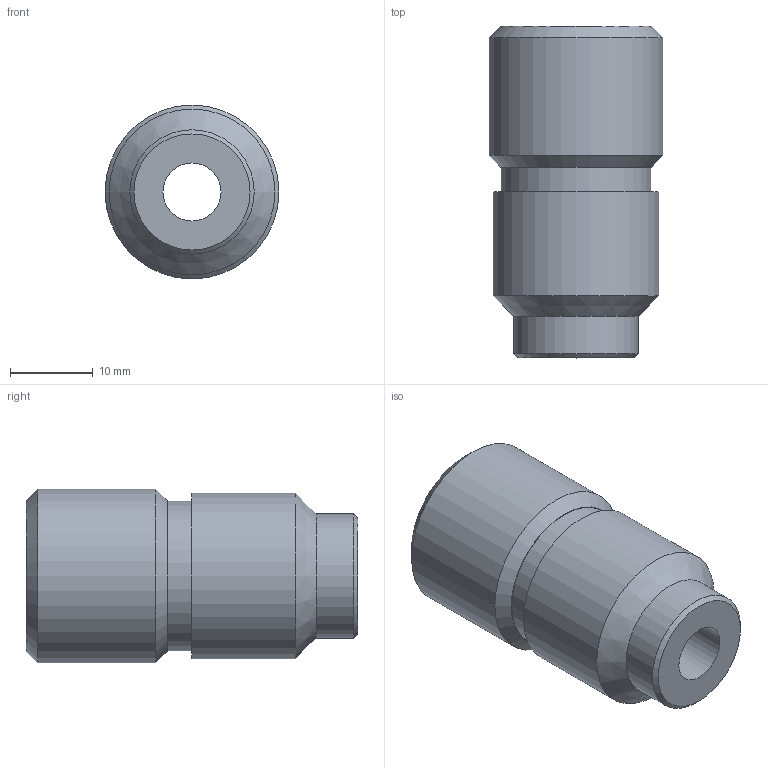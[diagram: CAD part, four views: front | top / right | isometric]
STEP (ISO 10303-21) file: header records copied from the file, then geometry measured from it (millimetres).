
FILE_DESCRIPTION(/* description */ (''),/* implementation_level */ '2;1');
FILE_NAME(/* name */ '1314-ST-DIN16282_6-015 - 11812132.stp',/* time_stamp */ '2024-06-17T08:28:14+02:00',/* author */ ('roger.thijssen'),/* organization */ (''),/* preprocessor_version */ 'ST-DEVELOPER v20',/* originating_system */ 'Autodesk Inventor 2024',/* authorisation */ '');
FILE_SCHEMA (('AUTOMOTIVE_DESIGN { 1 0 10303 214 3 1 1 }'));
Length unit declared in the file: millimetre
Products named in the file (1): 1314-ST-DIN16282_6-015 - 11812132
Bounding box: 20.95 x 40 x 20.95 mm (x, y, z)
Volume: 10373.9 mm3; surface area: 3851.3 mm2
Topology: 1 solids, 1 shells, 13 faces, 25 edges, 16 vertices
Faces by surface type: cylinder 5, cone 4, plane 4
Full cylindrical faces by diameter (mm): 7 x1, 15 x1, 18 x1, 20 x1, 20.955 x1
Entity records: 408 total; most frequent: DIRECTION 69, CARTESIAN_POINT 55, ORIENTED_EDGE 50, AXIS2_PLACEMENT_3D 30, EDGE_CURVE 25, EDGE_LOOP 17, CIRCLE 16, VERTEX_POINT 16
